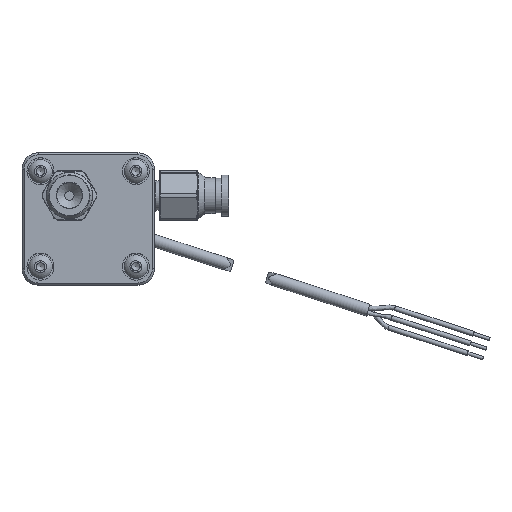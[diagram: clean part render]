
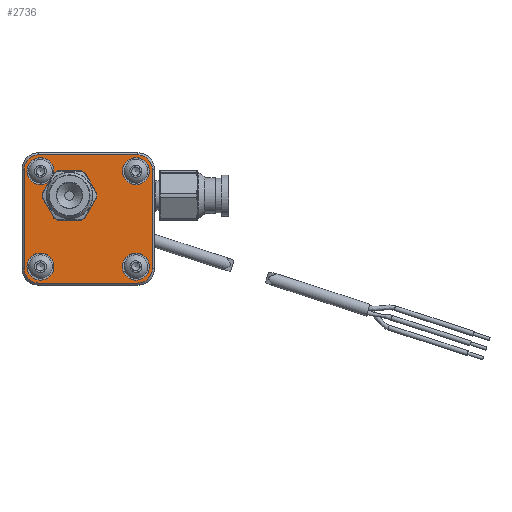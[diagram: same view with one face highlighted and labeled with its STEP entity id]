
A CAD part, top view. The second image highlights one B-rep face of the part: STEP entity #2736.
In plain terms, the highlighted planar face has unit normal (0, 0, 1) as drawn and (0, 0, -1) by its records, which use the part's own axes.
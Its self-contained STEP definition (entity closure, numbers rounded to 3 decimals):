
#36 = ORIENTED_EDGE ( 'NONE', *, *, #12618, .F. ) ;
#38 = EDGE_CURVE ( 'NONE', #650, #4337, #8895, .T. ) ;
#138 = CARTESIAN_POINT ( 'NONE',  ( -15.45, 11.95, -9.9 ) ) ;
#250 = FACE_BOUND ( 'NONE', #6575, .T. ) ;
#272 = VERTEX_POINT ( 'NONE', #9351 ) ;
#314 = CARTESIAN_POINT ( 'NONE',  ( -11.95, 15.45, -9.9 ) ) ;
#318 = DIRECTION ( 'NONE',  ( 0., 0., -1. ) ) ;
#399 = ORIENTED_EDGE ( 'NONE', *, *, #3799, .F. ) ;
#426 = VERTEX_POINT ( 'NONE', #9934 ) ;
#549 = VERTEX_POINT ( 'NONE', #10704 ) ;
#575 = LINE ( 'NONE', #13216, #1510 ) ;
#591 = VERTEX_POINT ( 'NONE', #12362 ) ;
#650 = VERTEX_POINT ( 'NONE', #10936 ) ;
#653 = ORIENTED_EDGE ( 'NONE', *, *, #8415, .T. ) ;
#687 = CIRCLE ( 'NONE', #2200, 3.25 ) ;
#1079 = VERTEX_POINT ( 'NONE', #10932 ) ;
#1161 = ORIENTED_EDGE ( 'NONE', *, *, #6244, .T. ) ;
#1266 = DIRECTION ( 'NONE',  ( 1., 0., 0. ) ) ;
#1310 = EDGE_CURVE ( 'NONE', #8820, #1079, #1503, .T. ) ;
#1461 = CARTESIAN_POINT ( 'NONE',  ( -15.45, 11.95, -9.9 ) ) ;
#1503 = LINE ( 'NONE', #5074, #13021 ) ;
#1510 = VECTOR ( 'NONE', #11233, 1000. ) ;
#1655 = FACE_BOUND ( 'NONE', #3202, .T. ) ;
#1687 = PLANE ( 'NONE',  #1771 ) ;
#1729 = DIRECTION ( 'NONE',  ( 0., 0., -1. ) ) ;
#1771 = AXIS2_PLACEMENT_3D ( 'NONE', #10913, #3690, #6817 ) ;
#1820 = VERTEX_POINT ( 'NONE', #3265 ) ;
#1933 = CIRCLE ( 'NONE', #5669, 3.5 ) ;
#1978 = FACE_BOUND ( 'NONE', #2347, .T. ) ;
#2200 = AXIS2_PLACEMENT_3D ( 'NONE', #2954, #4075, #9254 ) ;
#2219 = DIRECTION ( 'NONE',  ( -1., 0., 0. ) ) ;
#2289 = DIRECTION ( 'NONE',  ( 0., 1., 0. ) ) ;
#2347 = EDGE_LOOP ( 'NONE', ( #11609 ) ) ;
#2423 = FACE_OUTER_BOUND ( 'NONE', #3717, .T. ) ;
#2623 = DIRECTION ( 'NONE',  ( 0., 0., -1. ) ) ;
#2725 = EDGE_CURVE ( 'NONE', #1079, #6857, #6122, .T. ) ;
#2736 = ADVANCED_FACE ( 'NONE', ( #7571, #2423, #250, #7728, #1978, #1655 ), #1687, .F. ) ;
#2954 = CARTESIAN_POINT ( 'NONE',  ( -11.5, -11.5, -9.9 ) ) ;
#3140 = AXIS2_PLACEMENT_3D ( 'NONE', #12867, #5732, #12903 ) ;
#3202 = EDGE_LOOP ( 'NONE', ( #6227 ) ) ;
#3265 = CARTESIAN_POINT ( 'NONE',  ( -14.75, 11.5, -9.9 ) ) ;
#3513 = ORIENTED_EDGE ( 'NONE', *, *, #1310, .T. ) ;
#3554 = AXIS2_PLACEMENT_3D ( 'NONE', #10236, #11214, #5050 ) ;
#3690 = DIRECTION ( 'NONE',  ( 0., 0., 1. ) ) ;
#3706 = CARTESIAN_POINT ( 'NONE',  ( 15.45, -11.95, -9.9 ) ) ;
#3717 = EDGE_LOOP ( 'NONE', ( #12996, #1161, #653, #6798, #6100, #3513, #5368, #5266 ) ) ;
#3799 = EDGE_CURVE ( 'NONE', #272, #272, #687, .T. ) ;
#3903 = VECTOR ( 'NONE', #10881, 1000. ) ;
#3982 = CIRCLE ( 'NONE', #6979, 3.5 ) ;
#4075 = DIRECTION ( 'NONE',  ( 0., 0., -1. ) ) ;
#4223 = CARTESIAN_POINT ( 'NONE',  ( -11.95, -15.45, -9.9 ) ) ;
#4241 = AXIS2_PLACEMENT_3D ( 'NONE', #5123, #6240, #2219 ) ;
#4337 = VERTEX_POINT ( 'NONE', #138 ) ;
#4749 = CARTESIAN_POINT ( 'NONE',  ( -11.95, -11.95, -9.9 ) ) ;
#5050 = DIRECTION ( 'NONE',  ( -1., 0., 0. ) ) ;
#5074 = CARTESIAN_POINT ( 'NONE',  ( 11.95, 15.45, -9.9 ) ) ;
#5084 = EDGE_CURVE ( 'NONE', #591, #591, #10404, .T. ) ;
#5123 = CARTESIAN_POINT ( 'NONE',  ( 4.5, 5.65, -9.9 ) ) ;
#5134 = EDGE_LOOP ( 'NONE', ( #399 ) ) ;
#5266 = ORIENTED_EDGE ( 'NONE', *, *, #7325, .T. ) ;
#5343 = DIRECTION ( 'NONE',  ( 0., 0., -1. ) ) ;
#5368 = ORIENTED_EDGE ( 'NONE', *, *, #2725, .T. ) ;
#5388 = CARTESIAN_POINT ( 'NONE',  ( 8.25, 11.5, -9.9 ) ) ;
#5603 = CIRCLE ( 'NONE', #6012, 3.25 ) ;
#5669 = AXIS2_PLACEMENT_3D ( 'NONE', #9301, #5343, #1266 ) ;
#5732 = DIRECTION ( 'NONE',  ( 0., 0., -1. ) ) ;
#6012 = AXIS2_PLACEMENT_3D ( 'NONE', #11279, #12372, #10368 ) ;
#6100 = ORIENTED_EDGE ( 'NONE', *, *, #9464, .T. ) ;
#6112 = DIRECTION ( 'NONE',  ( 1., 0., 0. ) ) ;
#6122 = CIRCLE ( 'NONE', #3140, 3.5 ) ;
#6227 = ORIENTED_EDGE ( 'NONE', *, *, #9717, .F. ) ;
#6240 = DIRECTION ( 'NONE',  ( 0., 0., -1. ) ) ;
#6244 = EDGE_CURVE ( 'NONE', #12575, #10047, #575, .T. ) ;
#6575 = EDGE_LOOP ( 'NONE', ( #11052 ) ) ;
#6798 = ORIENTED_EDGE ( 'NONE', *, *, #38, .T. ) ;
#6817 = DIRECTION ( 'NONE',  ( 1., 0., 0. ) ) ;
#6857 = VERTEX_POINT ( 'NONE', #12243 ) ;
#6939 = EDGE_LOOP ( 'NONE', ( #36 ) ) ;
#6979 = AXIS2_PLACEMENT_3D ( 'NONE', #12291, #318, #7447 ) ;
#7325 = EDGE_CURVE ( 'NONE', #6857, #426, #12090, .T. ) ;
#7447 = DIRECTION ( 'NONE',  ( 1., 0., 0. ) ) ;
#7571 = FACE_BOUND ( 'NONE', #6939, .T. ) ;
#7599 = VECTOR ( 'NONE', #2289, 1000. ) ;
#7728 = FACE_BOUND ( 'NONE', #5134, .T. ) ;
#7729 = CARTESIAN_POINT ( 'NONE',  ( 11.5, 11.5, -9.9 ) ) ;
#8135 = VERTEX_POINT ( 'NONE', #5388 ) ;
#8415 = EDGE_CURVE ( 'NONE', #10047, #650, #12051, .T. ) ;
#8693 = EDGE_CURVE ( 'NONE', #1820, #1820, #5603, .T. ) ;
#8820 = VERTEX_POINT ( 'NONE', #314 ) ;
#8895 = LINE ( 'NONE', #1461, #7599 ) ;
#9254 = DIRECTION ( 'NONE',  ( -1., 0., 0. ) ) ;
#9301 = CARTESIAN_POINT ( 'NONE',  ( -11.95, 11.95, -9.9 ) ) ;
#9351 = CARTESIAN_POINT ( 'NONE',  ( -14.75, -11.5, -9.9 ) ) ;
#9464 = EDGE_CURVE ( 'NONE', #4337, #8820, #1933, .T. ) ;
#9717 = EDGE_CURVE ( 'NONE', #8135, #8135, #10275, .T. ) ;
#9825 = DIRECTION ( 'NONE',  ( -1., 0., 0. ) ) ;
#9897 = CIRCLE ( 'NONE', #4241, 2.75 ) ;
#9934 = CARTESIAN_POINT ( 'NONE',  ( 15.45, -11.95, -9.9 ) ) ;
#10047 = VERTEX_POINT ( 'NONE', #4223 ) ;
#10049 = CARTESIAN_POINT ( 'NONE',  ( 11.95, -15.45, -9.9 ) ) ;
#10236 = CARTESIAN_POINT ( 'NONE',  ( 11.5, -11.5, -9.9 ) ) ;
#10275 = CIRCLE ( 'NONE', #12300, 3.25 ) ;
#10368 = DIRECTION ( 'NONE',  ( -1., 0., 0. ) ) ;
#10404 = CIRCLE ( 'NONE', #3554, 3.25 ) ;
#10425 = EDGE_CURVE ( 'NONE', #426, #12575, #3982, .T. ) ;
#10704 = CARTESIAN_POINT ( 'NONE',  ( 1.75, 5.65, -9.9 ) ) ;
#10829 = DIRECTION ( 'NONE',  ( 1., 0., 0. ) ) ;
#10881 = DIRECTION ( 'NONE',  ( 0., -1., 0. ) ) ;
#10913 = CARTESIAN_POINT ( 'NONE',  ( 0., 0., -9.9 ) ) ;
#10932 = CARTESIAN_POINT ( 'NONE',  ( 11.95, 15.45, -9.9 ) ) ;
#10936 = CARTESIAN_POINT ( 'NONE',  ( -15.45, -11.95, -9.9 ) ) ;
#11052 = ORIENTED_EDGE ( 'NONE', *, *, #5084, .F. ) ;
#11214 = DIRECTION ( 'NONE',  ( 0., 0., -1. ) ) ;
#11233 = DIRECTION ( 'NONE',  ( -1., 0., 0. ) ) ;
#11279 = CARTESIAN_POINT ( 'NONE',  ( -11.5, 11.5, -9.9 ) ) ;
#11609 = ORIENTED_EDGE ( 'NONE', *, *, #8693, .F. ) ;
#12051 = CIRCLE ( 'NONE', #12696, 3.5 ) ;
#12090 = LINE ( 'NONE', #3706, #3903 ) ;
#12243 = CARTESIAN_POINT ( 'NONE',  ( 15.45, 11.95, -9.9 ) ) ;
#12291 = CARTESIAN_POINT ( 'NONE',  ( 11.95, -11.95, -9.9 ) ) ;
#12300 = AXIS2_PLACEMENT_3D ( 'NONE', #7729, #2623, #9825 ) ;
#12362 = CARTESIAN_POINT ( 'NONE',  ( 8.25, -11.5, -9.9 ) ) ;
#12372 = DIRECTION ( 'NONE',  ( 0., 0., -1. ) ) ;
#12575 = VERTEX_POINT ( 'NONE', #10049 ) ;
#12618 = EDGE_CURVE ( 'NONE', #549, #549, #9897, .T. ) ;
#12696 = AXIS2_PLACEMENT_3D ( 'NONE', #4749, #1729, #10829 ) ;
#12867 = CARTESIAN_POINT ( 'NONE',  ( 11.95, 11.95, -9.9 ) ) ;
#12903 = DIRECTION ( 'NONE',  ( 1., 0., 0. ) ) ;
#12996 = ORIENTED_EDGE ( 'NONE', *, *, #10425, .T. ) ;
#13021 = VECTOR ( 'NONE', #6112, 1000. ) ;
#13216 = CARTESIAN_POINT ( 'NONE',  ( -11.95, -15.45, -9.9 ) ) ;
